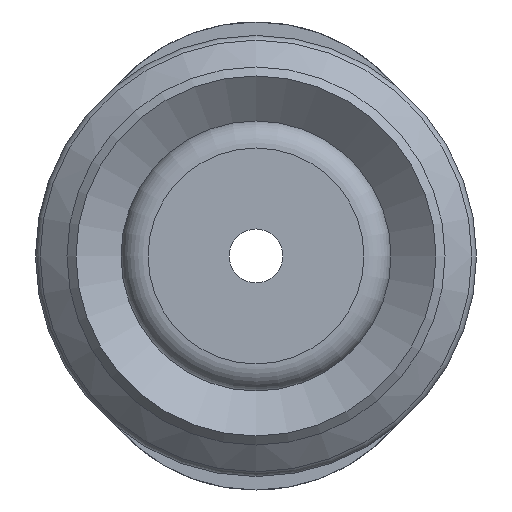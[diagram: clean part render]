
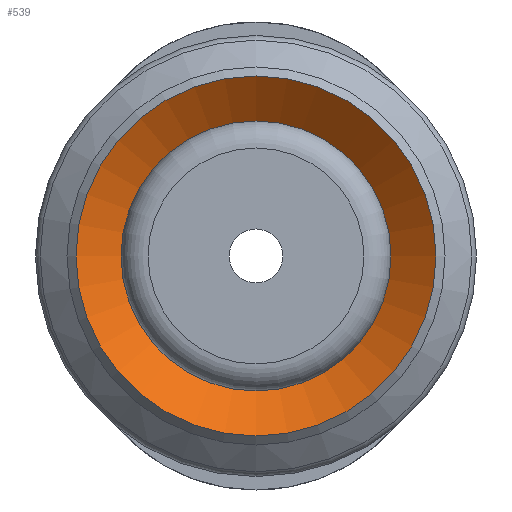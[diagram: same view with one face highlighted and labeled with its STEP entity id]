
A CAD part, front view. The second image highlights one B-rep face of the part: STEP entity #539.
In plain terms, the highlighted conical face has half-angle 52 degrees and reference radius 3 mm.
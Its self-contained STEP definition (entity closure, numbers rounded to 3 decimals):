
#539=ADVANCED_FACE('',(#801,#802),#803,.F.);
#801=FACE_BOUND('',#1150,.T.);
#802=FACE_OUTER_BOUND('',#1151,.T.);
#803=CONICAL_SURFACE('',#1152,3.0,0.908);
#1150=EDGE_LOOP('',(#2054));
#1151=EDGE_LOOP('',(#2055));
#1152=AXIS2_PLACEMENT_3D('',#2056,#2057,#2058);
#2054=ORIENTED_EDGE('',*,*,#2548,.F.);
#2055=ORIENTED_EDGE('',*,*,#2541,.T.);
#2056=CARTESIAN_POINT('',(0.0,7.741,0.));
#2057=DIRECTION('',(-0.0,-1.0,0.));
#2058=DIRECTION('',(0.0,0.,-1.0));
#2541=EDGE_CURVE('',#2875,#2875,#2876,.T.);
#2548=EDGE_CURVE('',#2889,#2889,#2890,.T.);
#2875=VERTEX_POINT('',#3581);
#2876=CIRCLE('',#3582,4.0);
#2889=VERTEX_POINT('',#3595);
#2890=CIRCLE('',#3596,3.0);
#3581=CARTESIAN_POINT('',(0.0,6.96,-4.0));
#3582=AXIS2_PLACEMENT_3D('',#4230,#4231,#4232);
#3595=CARTESIAN_POINT('',(0.0,7.741,-3.0));
#3596=AXIS2_PLACEMENT_3D('',#4251,#4252,#4253);
#4230=CARTESIAN_POINT('',(0.0,6.96,0.0));
#4231=DIRECTION('',(0.0,-1.0,0.));
#4232=DIRECTION('',(0.0,0.,-1.0));
#4251=CARTESIAN_POINT('',(0.0,7.741,0.));
#4252=DIRECTION('',(0.0,-1.0,0.));
#4253=DIRECTION('',(0.0,0.,-1.0));
